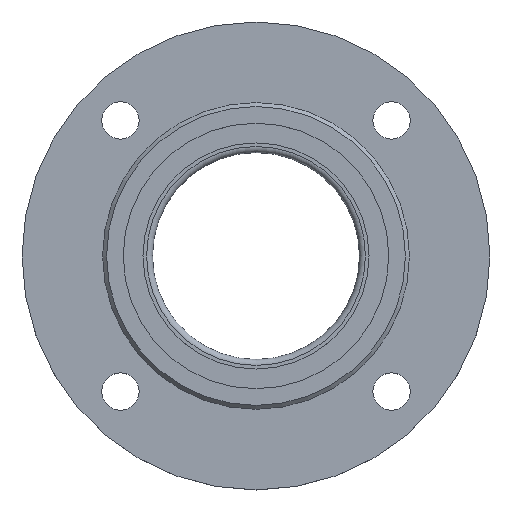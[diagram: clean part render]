
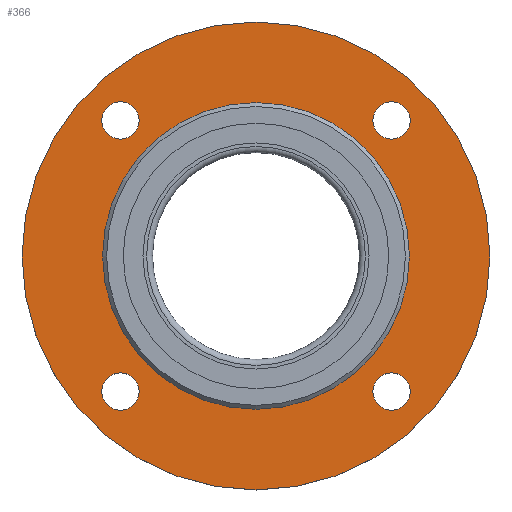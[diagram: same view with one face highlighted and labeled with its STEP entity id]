
A CAD part, top view. The second image highlights one B-rep face of the part: STEP entity #366.
In plain terms, the highlighted planar face has unit normal (0, 0, 1).
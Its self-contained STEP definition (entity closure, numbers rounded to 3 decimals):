
#22=FACE_BOUND('',#70,.T.);
#23=FACE_BOUND('',#71,.T.);
#24=FACE_BOUND('',#72,.T.);
#25=FACE_BOUND('',#73,.T.);
#26=FACE_BOUND('',#74,.T.);
#36=PLANE('',#427);
#48=FACE_OUTER_BOUND('',#69,.T.);
#69=EDGE_LOOP('',(#286,#287));
#70=EDGE_LOOP('',(#288,#289));
#71=EDGE_LOOP('',(#290,#291));
#72=EDGE_LOOP('',(#292,#293));
#73=EDGE_LOOP('',(#294,#295));
#74=EDGE_LOOP('',(#296,#297));
#124=CIRCLE('',#412,9.5);
#125=CIRCLE('',#413,9.5);
#127=CIRCLE('',#416,9.5);
#128=CIRCLE('',#417,9.5);
#130=CIRCLE('',#420,9.5);
#131=CIRCLE('',#421,9.5);
#133=CIRCLE('',#424,9.5);
#134=CIRCLE('',#425,9.5);
#136=CIRCLE('',#428,119.);
#137=CIRCLE('',#429,119.);
#138=CIRCLE('',#430,78.);
#139=CIRCLE('',#431,78.);
#165=VERTEX_POINT('',#618);
#166=VERTEX_POINT('',#619);
#168=VERTEX_POINT('',#626);
#169=VERTEX_POINT('',#627);
#171=VERTEX_POINT('',#634);
#172=VERTEX_POINT('',#635);
#174=VERTEX_POINT('',#642);
#175=VERTEX_POINT('',#643);
#177=VERTEX_POINT('',#650);
#178=VERTEX_POINT('',#651);
#179=VERTEX_POINT('',#654);
#180=VERTEX_POINT('',#655);
#206=EDGE_CURVE('',#165,#166,#124,.T.);
#207=EDGE_CURVE('',#166,#165,#125,.T.);
#210=EDGE_CURVE('',#168,#169,#127,.T.);
#211=EDGE_CURVE('',#169,#168,#128,.T.);
#214=EDGE_CURVE('',#171,#172,#130,.T.);
#215=EDGE_CURVE('',#172,#171,#131,.T.);
#218=EDGE_CURVE('',#174,#175,#133,.T.);
#219=EDGE_CURVE('',#175,#174,#134,.T.);
#222=EDGE_CURVE('',#177,#178,#136,.T.);
#223=EDGE_CURVE('',#178,#177,#137,.T.);
#224=EDGE_CURVE('',#179,#180,#138,.T.);
#225=EDGE_CURVE('',#180,#179,#139,.T.);
#286=ORIENTED_EDGE('',*,*,#222,.F.);
#287=ORIENTED_EDGE('',*,*,#223,.F.);
#288=ORIENTED_EDGE('',*,*,#206,.T.);
#289=ORIENTED_EDGE('',*,*,#207,.T.);
#290=ORIENTED_EDGE('',*,*,#210,.T.);
#291=ORIENTED_EDGE('',*,*,#211,.T.);
#292=ORIENTED_EDGE('',*,*,#214,.T.);
#293=ORIENTED_EDGE('',*,*,#215,.T.);
#294=ORIENTED_EDGE('',*,*,#218,.T.);
#295=ORIENTED_EDGE('',*,*,#219,.T.);
#296=ORIENTED_EDGE('',*,*,#224,.T.);
#297=ORIENTED_EDGE('',*,*,#225,.T.);
#366=ADVANCED_FACE('',(#48,#22,#23,#24,#25,#26),#36,.F.);
#412=AXIS2_PLACEMENT_3D('',#620,#491,#492);
#413=AXIS2_PLACEMENT_3D('',#621,#493,#494);
#416=AXIS2_PLACEMENT_3D('',#628,#500,#501);
#417=AXIS2_PLACEMENT_3D('',#629,#502,#503);
#420=AXIS2_PLACEMENT_3D('',#636,#509,#510);
#421=AXIS2_PLACEMENT_3D('',#637,#511,#512);
#424=AXIS2_PLACEMENT_3D('',#644,#518,#519);
#425=AXIS2_PLACEMENT_3D('',#645,#520,#521);
#427=AXIS2_PLACEMENT_3D('',#649,#525,#526);
#428=AXIS2_PLACEMENT_3D('',#652,#527,#528);
#429=AXIS2_PLACEMENT_3D('',#653,#529,#530);
#430=AXIS2_PLACEMENT_3D('',#656,#531,#532);
#431=AXIS2_PLACEMENT_3D('',#657,#533,#534);
#491=DIRECTION('center_axis',(0.,0.,-1.));
#492=DIRECTION('ref_axis',(0.,-1.,0.));
#493=DIRECTION('center_axis',(0.,0.,-1.));
#494=DIRECTION('ref_axis',(0.,-1.,0.));
#500=DIRECTION('center_axis',(0.,0.,-1.));
#501=DIRECTION('ref_axis',(-1.,0.,0.));
#502=DIRECTION('center_axis',(0.,0.,-1.));
#503=DIRECTION('ref_axis',(-1.,0.,0.));
#509=DIRECTION('center_axis',(0.,0.,-1.));
#510=DIRECTION('ref_axis',(0.,1.,0.));
#511=DIRECTION('center_axis',(0.,0.,-1.));
#512=DIRECTION('ref_axis',(0.,1.,0.));
#518=DIRECTION('center_axis',(0.,0.,-1.));
#519=DIRECTION('ref_axis',(1.,0.,0.));
#520=DIRECTION('center_axis',(0.,0.,-1.));
#521=DIRECTION('ref_axis',(1.,0.,0.));
#525=DIRECTION('center_axis',(0.,0.,-1.));
#526=DIRECTION('ref_axis',(-1.,0.,0.));
#527=DIRECTION('center_axis',(0.,0.,-1.));
#528=DIRECTION('ref_axis',(1.,0.,0.));
#529=DIRECTION('center_axis',(0.,0.,-1.));
#530=DIRECTION('ref_axis',(1.,0.,0.));
#531=DIRECTION('center_axis',(0.,0.,-1.));
#532=DIRECTION('ref_axis',(1.,0.,0.));
#533=DIRECTION('center_axis',(0.,0.,-1.));
#534=DIRECTION('ref_axis',(1.,0.,0.));
#618=CARTESIAN_POINT('',(68.943,59.443,-2.));
#619=CARTESIAN_POINT('',(68.943,78.443,-2.));
#620=CARTESIAN_POINT('Origin',(68.943,68.943,-2.));
#621=CARTESIAN_POINT('Origin',(68.943,68.943,-2.));
#626=CARTESIAN_POINT('',(59.443,-68.943,-2.));
#627=CARTESIAN_POINT('',(78.443,-68.943,-2.));
#628=CARTESIAN_POINT('Origin',(68.943,-68.943,-2.));
#629=CARTESIAN_POINT('Origin',(68.943,-68.943,-2.));
#634=CARTESIAN_POINT('',(-68.943,-59.443,-2.));
#635=CARTESIAN_POINT('',(-68.943,-78.443,-2.));
#636=CARTESIAN_POINT('Origin',(-68.943,-68.943,-2.));
#637=CARTESIAN_POINT('Origin',(-68.943,-68.943,-2.));
#642=CARTESIAN_POINT('',(-59.443,68.943,-2.));
#643=CARTESIAN_POINT('',(-78.443,68.943,-2.));
#644=CARTESIAN_POINT('Origin',(-68.943,68.943,-2.));
#645=CARTESIAN_POINT('Origin',(-68.943,68.943,-2.));
#649=CARTESIAN_POINT('Origin',(78.,0.,-2.));
#650=CARTESIAN_POINT('',(119.,0.,-2.));
#651=CARTESIAN_POINT('',(-119.,0.,-2.));
#652=CARTESIAN_POINT('Origin',(0.,0.,-2.));
#653=CARTESIAN_POINT('Origin',(0.,0.,-2.));
#654=CARTESIAN_POINT('',(78.,0.,-2.));
#655=CARTESIAN_POINT('',(-78.,0.,-2.));
#656=CARTESIAN_POINT('Origin',(0.,0.,-2.));
#657=CARTESIAN_POINT('Origin',(0.,0.,-2.));
